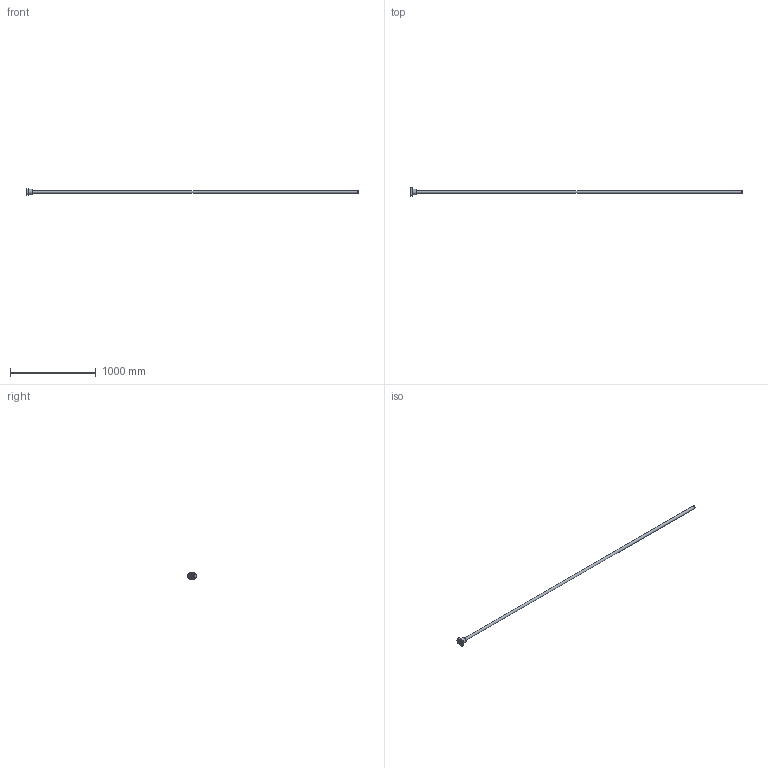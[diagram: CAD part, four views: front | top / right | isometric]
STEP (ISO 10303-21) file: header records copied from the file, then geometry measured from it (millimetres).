
FILE_DESCRIPTION( ( 'STEP AP203' ), ' ' );
FILE_NAME( 'p:/temp/worker_16/3916_4020/app_62_12018011810513211842732818fa3fd_000000_00_00_000000/format_0/BTK 3210V-2.6ZZ+3870LT_37820.stp', '2018-01-18T09:51:32', ( '' ), ( '' ), ' ', 'PARTsolutions', ' ' );
FILE_SCHEMA( ( 'CONFIG_CONTROL_DESIGN' ) );
Length unit declared in the file: millimetre
Products named in the file (3): BTK 3210V-2.6ZZ+3870LT_37820; _BTK 3210V-2.63782 Shaft; _BTK 3210V-2.6ZZ Nut
Assembly tree (2 placements, depth 2):
  BTK 3210V-2.6ZZ+3870LT_37820
    _BTK 3210V-2.63782 Shaft
    _BTK 3210V-2.6ZZ Nut
Bounding box: 3870 x 103 x 78 mm (x, y, z)
Volume: 3337924.8 mm3; surface area: 429924.7 mm2
Topology: 2 solids, 2 shells, 39 faces, 84 edges, 55 vertices
Faces by surface type: cylinder 17, plane 14, cone 8
Full cylindrical faces by diameter (mm): 4.917 x1, 9 x4, 25.6 x2, 32 x4, 38.4 x2, 60.3 x1, 67 x1
Entity records: 1202 total; most frequent: CARTESIAN_POINT 303, DIRECTION 174, ORIENTED_EDGE 122, AXIS2_PLACEMENT_3D 82, EDGE_LOOP 76, EDGE_CURVE 61, FACE_OUTER_BOUND 54, VERTEX_POINT 51
